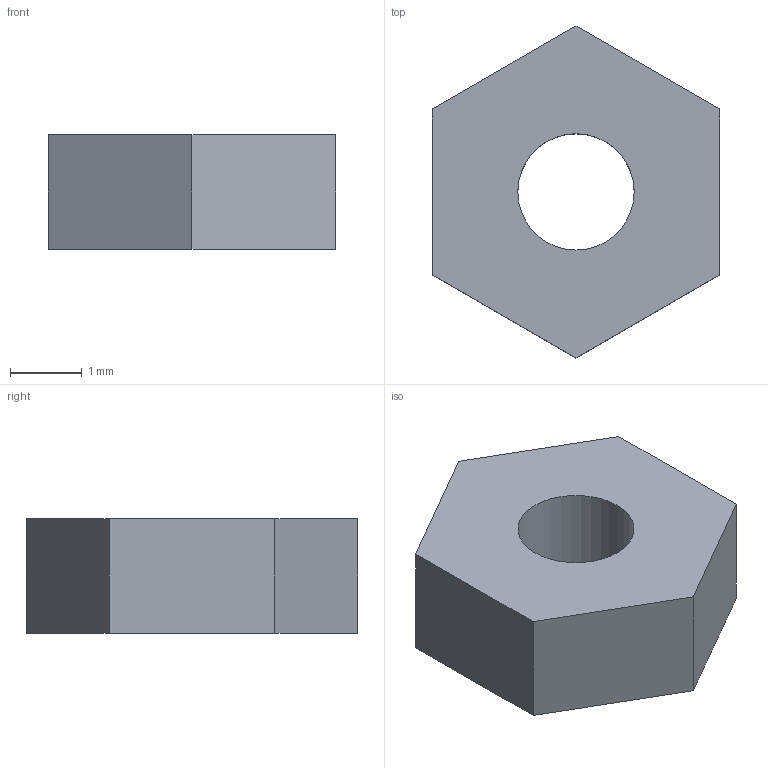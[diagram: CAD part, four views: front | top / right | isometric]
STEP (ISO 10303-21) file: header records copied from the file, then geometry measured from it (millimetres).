
FILE_DESCRIPTION(('Open CASCADE Model'),'2;1');
FILE_NAME('Open CASCADE Shape Model','2026-09-24T19:52:59',('Author'),( 'Open CASCADE'),'Open CASCADE STEP processor 7.8','Open CASCADE 7.8' ,'Unknown');
FILE_SCHEMA(('AUTOMOTIVE_DESIGN { 1 0 10303 214 1 1 1 1 }'));
Length unit declared in the file: millimetre
Products named in the file (1): Open CASCADE STEP translator 7.8 35
Bounding box: 4 x 4.62 x 1.6 mm (x, y, z)
Volume: 18.9 mm3; surface area: 53.9 mm2
Topology: 1 solids, 1 shells, 9 faces, 21 edges, 14 vertices
Faces by surface type: plane 8, cylinder 1
Full cylindrical faces by diameter (mm): 1.62 x1
Entity records: 544 total; most frequent: CARTESIAN_POINT 87, DIRECTION 85, LINE 59, VECTOR 59, ORIENTED_EDGE 42, PCURVE 42, DEFINITIONAL_REPRESENTATION 42, EDGE_CURVE 21
